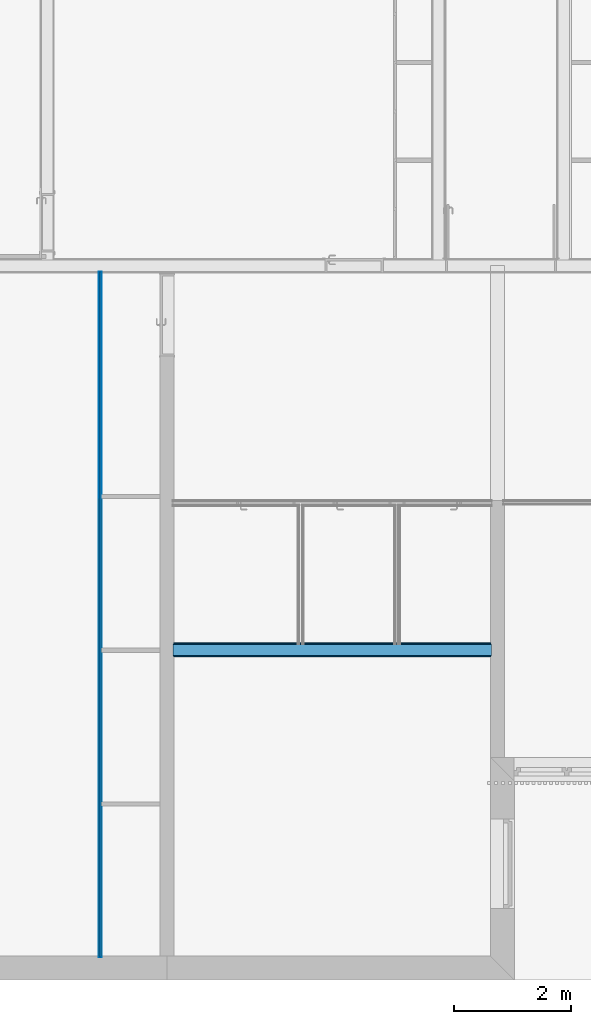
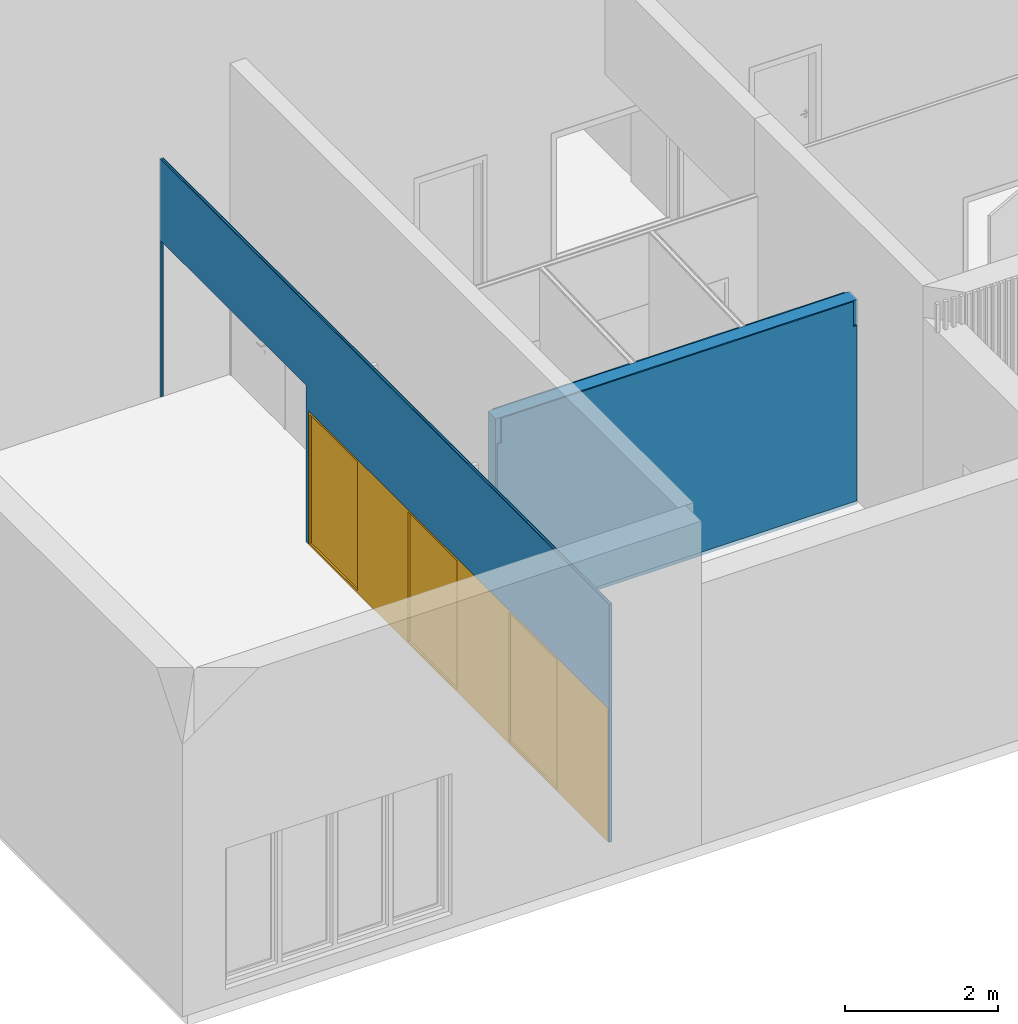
# One storey, part 20 of 34: 6 building element parts, 1 window, 2 openings, 2 elements without a shape of their own.
"""IFC2X3 building model written with IfcOpenShell, lengths in metres."""

from ifc_helpers import new_model, entity, si_unit, converted_unit, derived_unit, money_unit, direction, frame, origin_with_axes, origin_2d_with_axis, place, context, subcontext, project, spatial, polyline, rectangle, outline, extrude, boolean, faceted_brep, material, type_object, element, fill, aggregate, save


model = new_model("IFC2X3")

# Units and contexts
model_context = context("Model", 3, precision=1e-05, world=origin_with_axes(), true_north=direction((0.0, 1.0)))
body_context = subcontext(model_context, "Body", "Model", "MODEL_VIEW")
ifc_project = project(units=[si_unit("LENGTHUNIT", "METRE"), si_unit("AREAUNIT", "SQUARE_METRE"), si_unit("VOLUMEUNIT", "CUBIC_METRE"), converted_unit("PLANEANGLEUNIT", "DEGREE", entity("IfcPlaneAngleMeasure", 0.0174532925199), si_unit("PLANEANGLEUNIT", "RADIAN"), dimensions=[0, 0, 0, 0, 0, 0, 0]), money_unit("CHF"), converted_unit("TIMEUNIT", "Year", entity("IfcTimeMeasure", 31556926.0), si_unit("TIMEUNIT", "SECOND"), dimensions=[0, 0, 1, 0, 0, 0, 0]), si_unit("MASSUNIT", "GRAM", prefix="KILO"), si_unit("THERMODYNAMICTEMPERATUREUNIT", "DEGREE_CELSIUS"), si_unit("LUMINOUSINTENSITYUNIT", "LUMEN"), si_unit("ENERGYUNIT", "JOULE", prefix="MEGA"), derived_unit("THERMALCONDUCTANCEUNIT", [(si_unit("POWERUNIT", "WATT"), 1), (si_unit("LENGTHUNIT", "METRE"), -1), (si_unit("THERMODYNAMICTEMPERATUREUNIT", "KELVIN"), -1)]), derived_unit("SPECIFICHEATCAPACITYUNIT", [(si_unit("ENERGYUNIT", "JOULE"), 1), (si_unit("MASSUNIT", "GRAM", prefix="KILO"), -1), (si_unit("THERMODYNAMICTEMPERATUREUNIT", "KELVIN"), -1)]), derived_unit("MASSDENSITYUNIT", [(si_unit("MASSUNIT", "GRAM", prefix="KILO"), 1), (si_unit("VOLUMEUNIT", "CUBIC_METRE"), -1)])], contexts=[model_context])

# Site, building, storey
site_placement = place(None, origin_with_axes())
site = spatial("IfcSite", under=ifc_project, at=site_placement, Name="Site", CompositionType="ELEMENT")
building_placement = place(site_placement, origin_with_axes())
building = spatial("IfcBuilding", under=site, at=building_placement, Name="Bâtiment", CompositionType="ELEMENT")
storey_placement = place(building_placement, origin_with_axes())
storey = spatial("IfcBuildingStorey", under=building, at=storey_placement, Name="Rez-de-chaussée", CompositionType="ELEMENT", Elevation=0.0)

# Window
window_style = type_object("IfcWindowStyle", Name="Fenêtre horizontale à châssis multiples 26", ConstructionType="NOTDEFINED", OperationType="USERDEFINED", ParameterTakesPrecedence=False, Sizeable=False)
wall_2_placement = place(storey_placement, frame((17.5694697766, 3.06016550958, 0.0), z_axis=(0.0, 0.0, 1.0), x_axis=(0.0, 1.0, 0.0)))
opening_1_placement = place(wall_2_placement, frame((4.035, 0.0, 0.0), z_axis=(0.0, 0.0, 1.0), x_axis=(1.0, 0.0, 0.0)))
window_placement = place(opening_1_placement, frame((3.915, 0.0, 0.0), z_axis=(0.0, 0.0, 1.0), x_axis=(-1.0, 0.0, 0.0)))
window = element("IfcWindow", 1, at=window_placement, inside=storey, type_object=window_style, Name="Portes placard couliisantes 3x2panneaux", ObjectType="WINDOW", OverallHeight=2.13, OverallWidth=7.83, context=body_context, shape_type="Brep", body=[
    faceted_brep([(7.795, -0.05, 2.095), (7.83, -0.05, 2.095), (7.83, 0.0, 2.095), (7.795, 0.0, 2.095), (7.795, -0.05, 0.035), (7.83, -0.05, 0.035), (7.83, 0.0, 0.035), (7.795, 0.0, 0.035)], [[[0, 1, 2, 3]], [[0, 4, 5, 1]], [[1, 5, 6, 2]], [[3, 2, 6, 7]], [[4, 0, 3, 7]], [[5, 4, 7, 6]]]),
    faceted_brep([(0.035, -0.05, 0.035), (0.0, -0.05, 0.035), (0.0, 0.0, 0.035), (0.035, 0.0, 0.035), (0.035, -0.05, 2.095), (0.0, -0.05, 2.095), (0.0, 0.0, 2.095), (0.035, 0.0, 2.095)], [[[0, 1, 2, 3]], [[0, 4, 5, 1]], [[1, 5, 6, 2]], [[3, 2, 6, 7]], [[4, 0, 3, 7]], [[5, 4, 7, 6]]]),
    faceted_brep([(0.035, -0.05, 2.095), (0.0, -0.05, 2.095), (0.0, 0.0, 2.095), (0.035, 0.0, 2.095), (2.5725, -0.05, 2.095), (2.6075, -0.05, 2.095), (5.2075, -0.05, 2.095), (5.2425, -0.05, 2.095), (7.795, -0.05, 2.095), (7.83, -0.05, 2.095), (7.83, -0.05, 2.13), (0.0, -0.05, 2.13), (0.0, 0.0, 2.13), (7.83, 0.0, 2.13), (7.83, 0.0, 2.095), (7.795, 0.0, 2.095), (5.2425, 0.0, 2.095), (5.2075, 0.0, 2.095), (2.6075, 0.0, 2.095), (2.5725, 0.0, 2.095)], [[[0, 1, 2, 3]], [[0, 4, 5, 6, 7, 8, 9, 10, 11, 1]], [[1, 11, 12, 2]], [[3, 2, 12, 13, 14, 15, 16, 17, 18, 19]], [[4, 0, 3, 19]], [[5, 4, 19, 18]], [[6, 5, 18, 17]], [[7, 6, 17, 16]], [[8, 7, 16, 15]], [[9, 8, 15, 14]], [[10, 9, 14, 13]], [[11, 10, 13, 12]]]),
    faceted_brep([(2.5725, -0.05, 0.035), (2.6075, -0.05, 0.035), (2.6075, 0.0, 0.035), (2.5725, 0.0, 0.035), (0.035, -0.05, 0.035), (0.0, -0.05, 0.035), (0.0, -0.05, 0.0), (7.83, -0.05, 0.0), (7.83, -0.05, 0.035), (7.795, -0.05, 0.035), (5.2425, -0.05, 0.035), (5.2075, -0.05, 0.035), (5.2075, 0.0, 0.035), (5.2425, 0.0, 0.035), (7.795, 0.0, 0.035), (7.83, 0.0, 0.035), (7.83, 0.0, 0.0), (0.0, 0.0, 0.0), (0.0, 0.0, 0.035), (0.035, 0.0, 0.035)], [[[0, 1, 2, 3]], [[0, 4, 5, 6, 7, 8, 9, 10, 11, 1]], [[1, 11, 12, 2]], [[3, 2, 12, 13, 14, 15, 16, 17, 18, 19]], [[4, 0, 3, 19]], [[5, 4, 19, 18]], [[6, 5, 18, 17]], [[7, 6, 17, 16]], [[8, 7, 16, 15]], [[9, 8, 15, 14]], [[10, 9, 14, 13]], [[11, 10, 13, 12]]]),
    faceted_brep([(5.2075, -0.05, 0.035), (5.2075, -0.05, 2.095), (5.2075, 0.0, 2.095), (5.2075, 0.0, 0.035), (5.2425, -0.05, 0.035), (5.2425, -0.05, 2.095), (5.2425, 0.0, 2.095), (5.2425, 0.0, 0.035)], [[[0, 1, 2, 3]], [[0, 4, 5, 1]], [[1, 5, 6, 2]], [[3, 2, 6, 7]], [[4, 0, 3, 7]], [[5, 4, 7, 6]]]),
    faceted_brep([(2.5725, -0.05, 0.035), (2.5725, -0.05, 2.095), (2.5725, 0.0, 2.095), (2.5725, 0.0, 0.035), (2.6075, -0.05, 0.035), (2.6075, -0.05, 2.095), (2.6075, 0.0, 2.095), (2.6075, 0.0, 0.035)], [[[0, 1, 2, 3]], [[0, 4, 5, 1]], [[1, 5, 6, 2]], [[3, 2, 6, 7]], [[4, 0, 3, 7]], [[5, 4, 7, 6]]]),
    faceted_brep([(6.54375, -0.025, 0.035), (5.2425, -0.025, 0.035), (5.2425, 0.0, 0.035), (6.54375, 0.0, 0.035), (6.54375, -0.025, 2.095), (5.2425, -0.025, 2.095), (5.2425, 0.0, 2.095), (6.54375, 0.0, 2.095)], [[[0, 1, 2, 3]], [[0, 4, 5, 1]], [[1, 5, 6, 2]], [[3, 2, 6, 7]], [[4, 0, 3, 7]], [[5, 4, 7, 6]]]),
    faceted_brep([(7.795, -0.05, 0.035), (6.49375, -0.05, 0.035), (6.49375, -0.025, 0.035), (7.795, -0.025, 0.035), (7.795, -0.05, 2.095), (6.49375, -0.05, 2.095), (6.49375, -0.025, 2.095), (7.795, -0.025, 2.095)], [[[0, 1, 2, 3]], [[0, 4, 5, 1]], [[1, 5, 6, 2]], [[3, 2, 6, 7]], [[4, 0, 3, 7]], [[5, 4, 7, 6]]]),
    faceted_brep([(3.9325, -0.025, 0.035), (2.6075, -0.025, 0.035), (2.6075, 0.0, 0.035), (3.9325, 0.0, 0.035), (3.9325, -0.025, 2.095), (2.6075, -0.025, 2.095), (2.6075, 0.0, 2.095), (3.9325, 0.0, 2.095)], [[[0, 1, 2, 3]], [[0, 4, 5, 1]], [[1, 5, 6, 2]], [[3, 2, 6, 7]], [[4, 0, 3, 7]], [[5, 4, 7, 6]]]),
    faceted_brep([(5.2075, -0.05, 0.035), (3.8825, -0.05, 0.035), (3.8825, -0.025, 0.035), (5.2075, -0.025, 0.035), (5.2075, -0.05, 2.095), (3.8825, -0.05, 2.095), (3.8825, -0.025, 2.095), (5.2075, -0.025, 2.095)], [[[0, 1, 2, 3]], [[0, 4, 5, 1]], [[1, 5, 6, 2]], [[3, 2, 6, 7]], [[4, 0, 3, 7]], [[5, 4, 7, 6]]]),
    faceted_brep([(1.32875, -0.025, 0.035), (0.035, -0.025, 0.035), (0.035, 0.0, 0.035), (1.32875, 0.0, 0.035), (1.32875, -0.025, 2.095), (0.035, -0.025, 2.095), (0.035, 0.0, 2.095), (1.32875, 0.0, 2.095)], [[[0, 1, 2, 3]], [[0, 4, 5, 1]], [[1, 5, 6, 2]], [[3, 2, 6, 7]], [[4, 0, 3, 7]], [[5, 4, 7, 6]]]),
    faceted_brep([(2.5725, -0.05, 0.035), (1.27875, -0.05, 0.035), (1.27875, -0.025, 0.035), (2.5725, -0.025, 0.035), (2.5725, -0.05, 2.095), (1.27875, -0.05, 2.095), (1.27875, -0.025, 2.095), (2.5725, -0.025, 2.095)], [[[0, 1, 2, 3]], [[0, 4, 5, 1]], [[1, 5, 6, 2]], [[3, 2, 6, 7]], [[4, 0, 3, 7]], [[5, 4, 7, 6]]]),
])

# Wall, building element parts
wall_type_1 = type_object("IfcWallType", Name="Mur 20cm + enduit 2cm 240", PredefinedType="NOTDEFINED")
wall_1_placement = place(storey_placement, frame((18.6894697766, 8.42012566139, -0.21), z_axis=(0.0, 0.0, 1.0), x_axis=(1.0, 0.0, 0.0)))
wall_1 = element("IfcWall", 2, at=wall_1_placement, inside=storey, type_object=wall_type_1, Name="MUR_EXT-007")
ifc_material_1 = material(Name="Finition int - Enduit plâtre")
building_element_part_1_placement = place(wall_1_placement, origin_with_axes())
building_element_part_1 = element("IfcBuildingElementPart", 3, at=building_element_part_1_placement, material=ifc_material_1, Name="Finition int - Enduit plâtre", context=body_context, shape_type="CSG", body=[
    boolean("DIFFERENCE", boolean("DIFFERENCE", boolean("DIFFERENCE", extrude(outline(polyline([(-0.12, 0.1), (5.78, 0.1), (5.78, 0.12), (-0.12, 0.12), (-0.12, 0.1)])), origin_with_axes(), (0.0, 0.0, 1.0), 3.45243501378), faceted_brep([(-0.12, 0.1, 3.45243501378), (-0.12, 0.1, 0.0), (5.78, 0.1, 0.0), (5.78, 0.1, 3.45243501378), (5.485, 0.1, 3.40170439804), (5.485, 0.1, 3.0), (5.54, 0.1, 3.0), (5.54, 0.1, 0.2), (0.120000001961, 0.1, 0.2), (0.120000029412, 0.1, 3.0), (0.175000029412, 0.1, 3.0), (0.175000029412, 0.1, 3.40170439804), (2.24, 0.1, 3.40170439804), (2.24, 0.1, 0.21), (2.34, 0.1, 0.21), (2.34000000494, 0.1, 3.40170439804), (3.89, 0.1, 3.40170439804), (3.89, 0.1, 0.21), (3.99, 0.1, 0.21), (3.99000000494, 0.1, 3.40170439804), (-0.12, 0.12, 3.45243501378), (-0.12, 0.12, 0.0), (5.78, 0.12, 0.0), (5.78, 0.12, 3.45243501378), (5.485, 0.12, 3.40240439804), (5.485, 0.12, 3.0), (5.54, 0.12, 3.0), (5.54, 0.12, 0.2), (0.120000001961, 0.12, 0.2), (0.120000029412, 0.12, 3.0), (0.175000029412, 0.12, 3.0), (0.175000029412, 0.12, 3.40240439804), (2.24, 0.12, 3.40240439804), (2.24, 0.12, 0.21), (2.34, 0.12, 0.21), (2.34000000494, 0.12, 3.40240439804), (3.89, 0.12, 3.40240439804), (3.89, 0.12, 0.21), (3.99, 0.12, 0.21), (3.99000000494, 0.12, 3.40240439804)], [[[0, 1, 2, 3], [4, 5, 6, 7, 8, 9, 10, 11, 12, 13, 14, 15, 16, 17, 18, 19]], [[20, 21, 1, 0]], [[2, 1, 21, 22]], [[3, 2, 22, 23]], [[20, 0, 3, 23]], [[24, 25, 5, 4]], [[25, 26, 6, 5]], [[26, 27, 7, 6]], [[27, 28, 8, 7]], [[28, 29, 9, 8]], [[29, 30, 10, 9]], [[30, 31, 11, 10]], [[31, 32, 12, 11]], [[32, 33, 13, 12]], [[33, 34, 14, 13]], [[34, 35, 15, 14]], [[35, 36, 16, 15]], [[36, 37, 17, 16]], [[37, 38, 18, 17]], [[38, 39, 19, 18]], [[39, 24, 4, 19]], [[23, 22, 21, 20], [28, 27, 26, 25, 24, 39, 38, 37, 36, 35, 34, 33, 32, 31, 30, 29]]])), faceted_brep([(-0.12, -0.1, 3.45243501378), (-0.12, -0.1, 0.0), (5.78, -0.1, 0.0), (5.78, -0.1, 3.45243501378), (0.175000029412, -0.1, 3.39470439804), (5.485, -0.1, 3.39470439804), (5.56000000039, -0.1, 3.39470439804), (5.56, -0.1, 0.13), (0.1, -0.1, 0.13), (0.100000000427, -0.1, 3.39470439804), (-0.12, 0.1, 3.45243501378), (-0.12, 0.1, 0.0), (5.78, 0.1, 0.0), (5.78, 0.1, 3.45243501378), (5.485, 0.1, 3.40170439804), (5.56000000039, 0.1, 3.40170439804), (0.100000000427, 0.1, 3.40170439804), (0.175000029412, 0.1, 3.40170439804), (2.24, 0.1, 3.40170439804), (2.34000000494, 0.1, 3.40170439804), (3.89, 0.1, 3.40170439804), (3.99000000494, 0.1, 3.40170439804), (5.56, 0.1, 0.13), (0.1, 0.1, 0.13)], [[[0, 1, 2, 3], [4, 5, 6, 7, 8, 9]], [[10, 11, 1, 0]], [[2, 1, 11, 12]], [[3, 2, 12, 13]], [[10, 0, 3, 13]], [[14, 15, 6, 5, 4, 9, 16, 17, 18, 19, 20, 21]], [[15, 22, 7, 6]], [[22, 23, 8, 7]], [[23, 16, 9, 8]], [[13, 12, 11, 10], [23, 22, 15, 14, 21, 20, 19, 18, 17, 16]]])), faceted_brep([(-0.12, -0.12, 3.45243501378), (-0.12, -0.12, 0.0), (5.78, -0.12, 0.0), (5.78, -0.12, 3.45243501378), (5.485, -0.12, 3.39400439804), (5.485, -0.12, 3.0), (5.54, -0.12, 3.0), (5.54, -0.12, 0.2), (0.120000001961, -0.12, 0.2), (0.120000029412, -0.12, 3.0), (0.175000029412, -0.12, 3.0), (0.175000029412, -0.12, 3.39400439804), (-0.12, -0.1, 3.45243501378), (-0.12, -0.1, 0.0), (5.78, -0.1, 0.0), (5.78, -0.1, 3.45243501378), (5.485, -0.1, 3.39470439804), (5.485, -0.1, 3.0), (5.54, -0.1, 3.0), (5.54, -0.1, 0.2), (0.120000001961, -0.1, 0.2), (0.120000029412, -0.1, 3.0), (0.175000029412, -0.1, 3.0), (0.175000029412, -0.1, 3.39470439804)], [[[0, 1, 2, 3], [4, 5, 6, 7, 8, 9, 10, 11]], [[12, 13, 1, 0]], [[2, 1, 13, 14]], [[3, 2, 14, 15]], [[12, 0, 3, 15]], [[16, 17, 5, 4]], [[17, 18, 6, 5]], [[18, 19, 7, 6]], [[19, 20, 8, 7]], [[20, 21, 9, 8]], [[21, 22, 10, 9]], [[22, 23, 11, 10]], [[23, 16, 4, 11]], [[15, 14, 13, 12], [20, 19, 18, 17, 16, 23, 22, 21]]])),
])
ifc_material_2 = material(Name="Béton armé (Coulé)")
building_element_part_2_placement = place(wall_1_placement, origin_with_axes())
building_element_part_2 = element("IfcBuildingElementPart", 4, at=building_element_part_2_placement, material=ifc_material_2, Name="Béton armé (Coulé)", context=body_context, shape_type="CSG", body=[
    boolean("DIFFERENCE", boolean("DIFFERENCE", boolean("DIFFERENCE", extrude(outline(polyline([(-0.12, -0.1), (5.78, -0.1), (5.78, 0.1), (-0.12, 0.1), (-0.12, -0.1)])), origin_with_axes(), (0.0, 0.0, 1.0), 3.45243501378), faceted_brep([(-0.12, 0.1, 3.45243501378), (-0.12, 0.1, 0.0), (5.78, 0.1, 0.0), (5.78, 0.1, 3.45243501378), (5.485, 0.1, 3.40170439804), (5.485, 0.1, 3.0), (5.54, 0.1, 3.0), (5.54, 0.1, 0.2), (0.120000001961, 0.1, 0.2), (0.120000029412, 0.1, 3.0), (0.175000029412, 0.1, 3.0), (0.175000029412, 0.1, 3.40170439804), (2.24, 0.1, 3.40170439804), (2.24, 0.1, 0.21), (2.34, 0.1, 0.21), (2.34000000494, 0.1, 3.40170439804), (3.89, 0.1, 3.40170439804), (3.89, 0.1, 0.21), (3.99, 0.1, 0.21), (3.99000000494, 0.1, 3.40170439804), (-0.12, 0.12, 3.45243501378), (-0.12, 0.12, 0.0), (5.78, 0.12, 0.0), (5.78, 0.12, 3.45243501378), (5.485, 0.12, 3.40240439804), (5.485, 0.12, 3.0), (5.54, 0.12, 3.0), (5.54, 0.12, 0.2), (0.120000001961, 0.12, 0.2), (0.120000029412, 0.12, 3.0), (0.175000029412, 0.12, 3.0), (0.175000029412, 0.12, 3.40240439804), (2.24, 0.12, 3.40240439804), (2.24, 0.12, 0.21), (2.34, 0.12, 0.21), (2.34000000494, 0.12, 3.40240439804), (3.89, 0.12, 3.40240439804), (3.89, 0.12, 0.21), (3.99, 0.12, 0.21), (3.99000000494, 0.12, 3.40240439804)], [[[0, 1, 2, 3], [4, 5, 6, 7, 8, 9, 10, 11, 12, 13, 14, 15, 16, 17, 18, 19]], [[20, 21, 1, 0]], [[2, 1, 21, 22]], [[3, 2, 22, 23]], [[20, 0, 3, 23]], [[24, 25, 5, 4]], [[25, 26, 6, 5]], [[26, 27, 7, 6]], [[27, 28, 8, 7]], [[28, 29, 9, 8]], [[29, 30, 10, 9]], [[30, 31, 11, 10]], [[31, 32, 12, 11]], [[32, 33, 13, 12]], [[33, 34, 14, 13]], [[34, 35, 15, 14]], [[35, 36, 16, 15]], [[36, 37, 17, 16]], [[37, 38, 18, 17]], [[38, 39, 19, 18]], [[39, 24, 4, 19]], [[23, 22, 21, 20], [28, 27, 26, 25, 24, 39, 38, 37, 36, 35, 34, 33, 32, 31, 30, 29]]])), faceted_brep([(-0.12, -0.1, 3.45243501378), (-0.12, -0.1, 0.0), (5.78, -0.1, 0.0), (5.78, -0.1, 3.45243501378), (0.175000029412, -0.1, 3.39470439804), (5.485, -0.1, 3.39470439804), (5.56000000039, -0.1, 3.39470439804), (5.56, -0.1, 0.13), (0.1, -0.1, 0.13), (0.100000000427, -0.1, 3.39470439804), (-0.12, 0.1, 3.45243501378), (-0.12, 0.1, 0.0), (5.78, 0.1, 0.0), (5.78, 0.1, 3.45243501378), (5.485, 0.1, 3.40170439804), (5.56000000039, 0.1, 3.40170439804), (0.100000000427, 0.1, 3.40170439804), (0.175000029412, 0.1, 3.40170439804), (2.24, 0.1, 3.40170439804), (2.34000000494, 0.1, 3.40170439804), (3.89, 0.1, 3.40170439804), (3.99000000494, 0.1, 3.40170439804), (5.56, 0.1, 0.13), (0.1, 0.1, 0.13)], [[[0, 1, 2, 3], [4, 5, 6, 7, 8, 9]], [[10, 11, 1, 0]], [[2, 1, 11, 12]], [[3, 2, 12, 13]], [[10, 0, 3, 13]], [[14, 15, 6, 5, 4, 9, 16, 17, 18, 19, 20, 21]], [[15, 22, 7, 6]], [[22, 23, 8, 7]], [[23, 16, 9, 8]], [[13, 12, 11, 10], [23, 22, 15, 14, 21, 20, 19, 18, 17, 16]]])), faceted_brep([(-0.12, -0.12, 3.45243501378), (-0.12, -0.12, 0.0), (5.78, -0.12, 0.0), (5.78, -0.12, 3.45243501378), (5.485, -0.12, 3.39400439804), (5.485, -0.12, 3.0), (5.54, -0.12, 3.0), (5.54, -0.12, 0.2), (0.120000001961, -0.12, 0.2), (0.120000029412, -0.12, 3.0), (0.175000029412, -0.12, 3.0), (0.175000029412, -0.12, 3.39400439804), (-0.12, -0.1, 3.45243501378), (-0.12, -0.1, 0.0), (5.78, -0.1, 0.0), (5.78, -0.1, 3.45243501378), (5.485, -0.1, 3.39470439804), (5.485, -0.1, 3.0), (5.54, -0.1, 3.0), (5.54, -0.1, 0.2), (0.120000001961, -0.1, 0.2), (0.120000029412, -0.1, 3.0), (0.175000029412, -0.1, 3.0), (0.175000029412, -0.1, 3.39470439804)], [[[0, 1, 2, 3], [4, 5, 6, 7, 8, 9, 10, 11]], [[12, 13, 1, 0]], [[2, 1, 13, 14]], [[3, 2, 14, 15]], [[12, 0, 3, 15]], [[16, 17, 5, 4]], [[17, 18, 6, 5]], [[18, 19, 7, 6]], [[19, 20, 8, 7]], [[20, 21, 9, 8]], [[21, 22, 10, 9]], [[22, 23, 11, 10]], [[23, 16, 4, 11]], [[15, 14, 13, 12], [20, 19, 18, 17, 16, 23, 22, 21]]])),
])
building_element_part_3_placement = place(wall_1_placement, origin_with_axes())
building_element_part_3 = element("IfcBuildingElementPart", 5, at=building_element_part_3_placement, material=ifc_material_1, Name="Finition int - Enduit plâtre", context=body_context, shape_type="CSG", body=[
    boolean("DIFFERENCE", boolean("DIFFERENCE", boolean("DIFFERENCE", extrude(outline(polyline([(-0.12, -0.12), (5.78, -0.12), (5.78, -0.1), (-0.12, -0.1), (-0.12, -0.12)])), origin_with_axes(), (0.0, 0.0, 1.0), 3.45243501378), faceted_brep([(-0.12, 0.1, 3.45243501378), (-0.12, 0.1, 0.0), (5.78, 0.1, 0.0), (5.78, 0.1, 3.45243501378), (5.485, 0.1, 3.40170439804), (5.485, 0.1, 3.0), (5.54, 0.1, 3.0), (5.54, 0.1, 0.2), (0.120000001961, 0.1, 0.2), (0.120000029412, 0.1, 3.0), (0.175000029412, 0.1, 3.0), (0.175000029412, 0.1, 3.40170439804), (2.24, 0.1, 3.40170439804), (2.24, 0.1, 0.21), (2.34, 0.1, 0.21), (2.34000000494, 0.1, 3.40170439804), (3.89, 0.1, 3.40170439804), (3.89, 0.1, 0.21), (3.99, 0.1, 0.21), (3.99000000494, 0.1, 3.40170439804), (-0.12, 0.12, 3.45243501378), (-0.12, 0.12, 0.0), (5.78, 0.12, 0.0), (5.78, 0.12, 3.45243501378), (5.485, 0.12, 3.40240439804), (5.485, 0.12, 3.0), (5.54, 0.12, 3.0), (5.54, 0.12, 0.2), (0.120000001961, 0.12, 0.2), (0.120000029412, 0.12, 3.0), (0.175000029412, 0.12, 3.0), (0.175000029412, 0.12, 3.40240439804), (2.24, 0.12, 3.40240439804), (2.24, 0.12, 0.21), (2.34, 0.12, 0.21), (2.34000000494, 0.12, 3.40240439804), (3.89, 0.12, 3.40240439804), (3.89, 0.12, 0.21), (3.99, 0.12, 0.21), (3.99000000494, 0.12, 3.40240439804)], [[[0, 1, 2, 3], [4, 5, 6, 7, 8, 9, 10, 11, 12, 13, 14, 15, 16, 17, 18, 19]], [[20, 21, 1, 0]], [[2, 1, 21, 22]], [[3, 2, 22, 23]], [[20, 0, 3, 23]], [[24, 25, 5, 4]], [[25, 26, 6, 5]], [[26, 27, 7, 6]], [[27, 28, 8, 7]], [[28, 29, 9, 8]], [[29, 30, 10, 9]], [[30, 31, 11, 10]], [[31, 32, 12, 11]], [[32, 33, 13, 12]], [[33, 34, 14, 13]], [[34, 35, 15, 14]], [[35, 36, 16, 15]], [[36, 37, 17, 16]], [[37, 38, 18, 17]], [[38, 39, 19, 18]], [[39, 24, 4, 19]], [[23, 22, 21, 20], [28, 27, 26, 25, 24, 39, 38, 37, 36, 35, 34, 33, 32, 31, 30, 29]]])), faceted_brep([(-0.12, -0.1, 3.45243501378), (-0.12, -0.1, 0.0), (5.78, -0.1, 0.0), (5.78, -0.1, 3.45243501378), (0.175000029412, -0.1, 3.39470439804), (5.485, -0.1, 3.39470439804), (5.56000000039, -0.1, 3.39470439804), (5.56, -0.1, 0.13), (0.1, -0.1, 0.13), (0.100000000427, -0.1, 3.39470439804), (-0.12, 0.1, 3.45243501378), (-0.12, 0.1, 0.0), (5.78, 0.1, 0.0), (5.78, 0.1, 3.45243501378), (5.485, 0.1, 3.40170439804), (5.56000000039, 0.1, 3.40170439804), (0.100000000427, 0.1, 3.40170439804), (0.175000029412, 0.1, 3.40170439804), (2.24, 0.1, 3.40170439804), (2.34000000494, 0.1, 3.40170439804), (3.89, 0.1, 3.40170439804), (3.99000000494, 0.1, 3.40170439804), (5.56, 0.1, 0.13), (0.1, 0.1, 0.13)], [[[0, 1, 2, 3], [4, 5, 6, 7, 8, 9]], [[10, 11, 1, 0]], [[2, 1, 11, 12]], [[3, 2, 12, 13]], [[10, 0, 3, 13]], [[14, 15, 6, 5, 4, 9, 16, 17, 18, 19, 20, 21]], [[15, 22, 7, 6]], [[22, 23, 8, 7]], [[23, 16, 9, 8]], [[13, 12, 11, 10], [23, 22, 15, 14, 21, 20, 19, 18, 17, 16]]])), faceted_brep([(-0.12, -0.12, 3.45243501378), (-0.12, -0.12, 0.0), (5.78, -0.12, 0.0), (5.78, -0.12, 3.45243501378), (5.485, -0.12, 3.39400439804), (5.485, -0.12, 3.0), (5.54, -0.12, 3.0), (5.54, -0.12, 0.2), (0.120000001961, -0.12, 0.2), (0.120000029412, -0.12, 3.0), (0.175000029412, -0.12, 3.0), (0.175000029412, -0.12, 3.39400439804), (-0.12, -0.1, 3.45243501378), (-0.12, -0.1, 0.0), (5.78, -0.1, 0.0), (5.78, -0.1, 3.45243501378), (5.485, -0.1, 3.39470439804), (5.485, -0.1, 3.0), (5.54, -0.1, 3.0), (5.54, -0.1, 0.2), (0.120000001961, -0.1, 0.2), (0.120000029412, -0.1, 3.0), (0.175000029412, -0.1, 3.0), (0.175000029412, -0.1, 3.39470439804)], [[[0, 1, 2, 3], [4, 5, 6, 7, 8, 9, 10, 11]], [[12, 13, 1, 0]], [[2, 1, 13, 14]], [[3, 2, 14, 15]], [[12, 0, 3, 15]], [[16, 17, 5, 4]], [[17, 18, 6, 5]], [[18, 19, 7, 6]], [[19, 20, 8, 7]], [[20, 21, 9, 8]], [[21, 22, 10, 9]], [[22, 23, 11, 10]], [[23, 16, 4, 11]], [[15, 14, 13, 12], [20, 19, 18, 17, 16, 23, 22, 21]]])),
])
aggregate(wall_1, [building_element_part_1, building_element_part_2, building_element_part_3])

# Wall, opening
wall_type_2 = type_object("IfcWallType", Name="Cloison 50 50", PredefinedType="NOTDEFINED")
wall_2 = element("IfcWall", 6, at=wall_2_placement, inside=storey, type_object=wall_type_2, Name="MUR_EXT-006")
opening_1 = element("IfcOpeningElement", 7, at=opening_1_placement, cuts=wall_2, Name="Portes placard couliisantes 3x2panneaux", context=body_context, shape_type="SweptSolid", body=[
    extrude(rectangle(XDim=7.83, YDim=2.13, at=origin_2d_with_axis()), frame((0.0, -0.05, 1.065), z_axis=(0.0, -1.0, 0.0), x_axis=(1.0, 0.0, 0.0)), (0.0, 0.0, -1.0), 0.15),
])

fill(opening_1, window)

# Opening
opening_2_placement = place(wall_2_placement, frame((9.91991724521, 0.0, 0.0), z_axis=(0.0, 0.0, 1.0), x_axis=(1.0, 0.0, 0.0)))
element("IfcOpeningElement", 8, at=opening_2_placement, cuts=wall_2, Name="PORTE-003", context=body_context, shape_type="SweptSolid", body=[
    extrude(rectangle(XDim=3.79983449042, YDim=2.5, at=origin_2d_with_axis()), frame((0.0, 0.05, 1.25), z_axis=(0.0, 1.0, 0.0), x_axis=(-1.0, 0.0, 0.0)), (0.0, 0.0, -1.0), 0.15),
])

# Building element part
ifc_material_3 = material(Name="Finition int - Plaque de plâtre")
building_element_part_4_placement = place(wall_2_placement, origin_with_axes())
solid_1 = boolean("DIFFERENCE", boolean("DIFFERENCE", boolean("DIFFERENCE", boolean("DIFFERENCE", boolean("DIFFERENCE", boolean("DIFFERENCE", boolean("DIFFERENCE", boolean("DIFFERENCE", extrude(outline(polyline([(-0.29, 0.037), (12.0598344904, 0.037), (12.0598344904, 0.05), (-0.29, 0.05), (-0.29, 0.037)])), origin_with_axes(), (0.0, 0.0, 1.0), 3.8), faceted_brep([(0.1, 0.037, 0.0), (0.1, 0.037, 3.8), (-0.29, 0.037, 3.8), (-0.29, 0.037, 0.0), (0.1, 0.05, 3.8), (0.1, 0.05, 0.0), (-0.29, 0.05, 3.8), (-0.29, 0.05, 0.0)], [[[0, 1, 2, 3]], [[4, 1, 0, 5]], [[1, 4, 6, 2]], [[6, 7, 3, 2]], [[5, 0, 3, 7]], [[4, 5, 7, 6]]])), faceted_brep([(11.8398344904, 0.05, 3.8), (11.8398344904, 0.037, 3.8), (12.0598344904, 0.037, 3.8), (12.0598344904, 0.05, 3.8), (11.8398344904, 0.05, 0.0), (11.8398344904, 0.037, 0.0), (12.0598344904, 0.037, 0.0), (12.0598344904, 0.05, 0.0)], [[[0, 1, 2, 3]], [[1, 0, 4, 5]], [[1, 5, 6, 2]], [[2, 6, 7, 3]], [[4, 0, 3, 7]], [[5, 4, 7, 6]]])), faceted_brep([(0.1, 0.013, 0.0), (0.1, 0.013, 3.8), (-0.29, 0.013, 3.8), (-0.29, 0.013, 0.0), (0.1, 0.037, 3.8), (0.1, 0.037, 0.0), (-0.29, 0.037, 3.8), (-0.29, 0.037, 0.0)], [[[0, 1, 2, 3]], [[4, 1, 0, 5]], [[1, 4, 6, 2]], [[6, 7, 3, 2]], [[5, 0, 3, 7]], [[4, 5, 7, 6]]])), faceted_brep([(11.8398344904, 0.037, 3.8), (11.8398344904, 0.013, 3.8), (12.0598344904, 0.013, 3.8), (12.0598344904, 0.037, 3.8), (11.8398344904, 0.037, 0.0), (11.8398344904, 0.013, 0.0), (12.0598344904, 0.013, 0.0), (12.0598344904, 0.037, 0.0)], [[[0, 1, 2, 3]], [[1, 0, 4, 5]], [[1, 5, 6, 2]], [[2, 6, 7, 3]], [[4, 0, 3, 7]], [[5, 4, 7, 6]]])), faceted_brep([(0.1, 0.0, 0.0), (0.1, 0.0, 3.8), (-0.29, 0.0, 3.8), (-0.29, 0.0, 0.0), (0.1, 0.013, 3.8), (0.1, 0.013, 0.0), (-0.29, 0.013, 3.8), (-0.29, 0.013, 0.0)], [[[0, 1, 2, 3]], [[4, 1, 0, 5]], [[1, 4, 6, 2]], [[6, 7, 3, 2]], [[5, 0, 3, 7]], [[4, 5, 7, 6]]])), faceted_brep([(2.703, 0.0, 2.5), (2.703, 0.0, 0.0), (2.747, 0.0, 0.0), (2.747, 0.0, 2.5), (2.703, 0.013, 2.5), (2.703, 0.013, 0.0), (2.747, 0.013, 0.0), (2.747, 0.013, 2.5)], [[[0, 1, 2, 3]], [[1, 0, 4, 5]], [[6, 2, 1, 5]], [[3, 2, 6, 7]], [[0, 3, 7, 4]], [[7, 6, 5, 4]]])), faceted_brep([(5.333, 0.0, 2.5), (5.333, 0.0, 0.0), (5.377, 0.0, 0.0), (5.377, 0.0, 2.5), (5.333, 0.013, 2.5), (5.333, 0.013, 0.0), (5.377, 0.013, 0.0), (5.377, 0.013, 2.5)], [[[0, 1, 2, 3]], [[1, 0, 4, 5]], [[6, 2, 1, 5]], [[3, 2, 6, 7]], [[0, 3, 7, 4]], [[7, 6, 5, 4]]])), faceted_brep([(7.963, 0.0, 2.5), (7.963, 0.0, 0.0), (8.007, 0.0, 0.0), (8.007, 0.0, 2.5), (7.963, 0.013, 2.5), (7.963, 0.013, 0.0), (8.007, 0.013, 0.0), (8.007, 0.013, 2.5)], [[[0, 1, 2, 3]], [[1, 0, 4, 5]], [[6, 2, 1, 5]], [[3, 2, 6, 7]], [[0, 3, 7, 4]], [[7, 6, 5, 4]]]))
building_element_part_4 = element("IfcBuildingElementPart", 9, at=building_element_part_4_placement, material=ifc_material_3, Name="Finition int - Plaque de plâtre", context=body_context, shape_type="CSG", body=[
    boolean("DIFFERENCE", solid_1, faceted_brep([(11.8398344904, 0.013, 3.8), (11.8398344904, 0.0, 3.8), (12.0598344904, 0.0, 3.8), (12.0598344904, 0.013, 3.8), (11.8398344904, 0.0, 0.0), (11.8398344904, 0.013, 0.0), (12.0598344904, 0.0, 0.0), (12.0598344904, 0.013, 0.0)], [[[0, 1, 2, 3]], [[4, 1, 0, 5]], [[1, 4, 6, 2]], [[2, 6, 7, 3]], [[5, 0, 3, 7]], [[4, 5, 7, 6]]])),
])

ifc_material_4 = material(Name="Isolation - Laine de verre")
building_element_part_5_placement = place(wall_2_placement, origin_with_axes())
solid_2 = boolean("DIFFERENCE", boolean("DIFFERENCE", boolean("DIFFERENCE", boolean("DIFFERENCE", boolean("DIFFERENCE", boolean("DIFFERENCE", boolean("DIFFERENCE", boolean("DIFFERENCE", extrude(outline(polyline([(-0.29, 0.013), (12.0598344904, 0.013), (12.0598344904, 0.037), (-0.29, 0.037), (-0.29, 0.013)])), origin_with_axes(), (0.0, 0.0, 1.0), 3.8), faceted_brep([(0.1, 0.037, 0.0), (0.1, 0.037, 3.8), (-0.29, 0.037, 3.8), (-0.29, 0.037, 0.0), (0.1, 0.05, 3.8), (0.1, 0.05, 0.0), (-0.29, 0.05, 3.8), (-0.29, 0.05, 0.0)], [[[0, 1, 2, 3]], [[4, 1, 0, 5]], [[1, 4, 6, 2]], [[6, 7, 3, 2]], [[5, 0, 3, 7]], [[4, 5, 7, 6]]])), faceted_brep([(11.8398344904, 0.05, 3.8), (11.8398344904, 0.037, 3.8), (12.0598344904, 0.037, 3.8), (12.0598344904, 0.05, 3.8), (11.8398344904, 0.05, 0.0), (11.8398344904, 0.037, 0.0), (12.0598344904, 0.037, 0.0), (12.0598344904, 0.05, 0.0)], [[[0, 1, 2, 3]], [[1, 0, 4, 5]], [[1, 5, 6, 2]], [[2, 6, 7, 3]], [[4, 0, 3, 7]], [[5, 4, 7, 6]]])), faceted_brep([(0.1, 0.013, 0.0), (0.1, 0.013, 3.8), (-0.29, 0.013, 3.8), (-0.29, 0.013, 0.0), (0.1, 0.037, 3.8), (0.1, 0.037, 0.0), (-0.29, 0.037, 3.8), (-0.29, 0.037, 0.0)], [[[0, 1, 2, 3]], [[4, 1, 0, 5]], [[1, 4, 6, 2]], [[6, 7, 3, 2]], [[5, 0, 3, 7]], [[4, 5, 7, 6]]])), faceted_brep([(11.8398344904, 0.037, 3.8), (11.8398344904, 0.013, 3.8), (12.0598344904, 0.013, 3.8), (12.0598344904, 0.037, 3.8), (11.8398344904, 0.037, 0.0), (11.8398344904, 0.013, 0.0), (12.0598344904, 0.013, 0.0), (12.0598344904, 0.037, 0.0)], [[[0, 1, 2, 3]], [[1, 0, 4, 5]], [[1, 5, 6, 2]], [[2, 6, 7, 3]], [[4, 0, 3, 7]], [[5, 4, 7, 6]]])), faceted_brep([(0.1, 0.0, 0.0), (0.1, 0.0, 3.8), (-0.29, 0.0, 3.8), (-0.29, 0.0, 0.0), (0.1, 0.013, 3.8), (0.1, 0.013, 0.0), (-0.29, 0.013, 3.8), (-0.29, 0.013, 0.0)], [[[0, 1, 2, 3]], [[4, 1, 0, 5]], [[1, 4, 6, 2]], [[6, 7, 3, 2]], [[5, 0, 3, 7]], [[4, 5, 7, 6]]])), faceted_brep([(2.703, 0.0, 2.5), (2.703, 0.0, 0.0), (2.747, 0.0, 0.0), (2.747, 0.0, 2.5), (2.703, 0.013, 2.5), (2.703, 0.013, 0.0), (2.747, 0.013, 0.0), (2.747, 0.013, 2.5)], [[[0, 1, 2, 3]], [[1, 0, 4, 5]], [[6, 2, 1, 5]], [[3, 2, 6, 7]], [[0, 3, 7, 4]], [[7, 6, 5, 4]]])), faceted_brep([(5.333, 0.0, 2.5), (5.333, 0.0, 0.0), (5.377, 0.0, 0.0), (5.377, 0.0, 2.5), (5.333, 0.013, 2.5), (5.333, 0.013, 0.0), (5.377, 0.013, 0.0), (5.377, 0.013, 2.5)], [[[0, 1, 2, 3]], [[1, 0, 4, 5]], [[6, 2, 1, 5]], [[3, 2, 6, 7]], [[0, 3, 7, 4]], [[7, 6, 5, 4]]])), faceted_brep([(7.963, 0.0, 2.5), (7.963, 0.0, 0.0), (8.007, 0.0, 0.0), (8.007, 0.0, 2.5), (7.963, 0.013, 2.5), (7.963, 0.013, 0.0), (8.007, 0.013, 0.0), (8.007, 0.013, 2.5)], [[[0, 1, 2, 3]], [[1, 0, 4, 5]], [[6, 2, 1, 5]], [[3, 2, 6, 7]], [[0, 3, 7, 4]], [[7, 6, 5, 4]]]))
building_element_part_5 = element("IfcBuildingElementPart", 10, at=building_element_part_5_placement, material=ifc_material_4, Name="Isolation - Laine de verre", context=body_context, shape_type="CSG", body=[
    boolean("DIFFERENCE", solid_2, faceted_brep([(11.8398344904, 0.013, 3.8), (11.8398344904, 0.0, 3.8), (12.0598344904, 0.0, 3.8), (12.0598344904, 0.013, 3.8), (11.8398344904, 0.0, 0.0), (11.8398344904, 0.013, 0.0), (12.0598344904, 0.0, 0.0), (12.0598344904, 0.013, 0.0)], [[[0, 1, 2, 3]], [[4, 1, 0, 5]], [[1, 4, 6, 2]], [[2, 6, 7, 3]], [[5, 0, 3, 7]], [[4, 5, 7, 6]]])),
])

building_element_part_6_placement = place(wall_2_placement, origin_with_axes())
solid_3 = boolean("DIFFERENCE", boolean("DIFFERENCE", boolean("DIFFERENCE", boolean("DIFFERENCE", boolean("DIFFERENCE", boolean("DIFFERENCE", boolean("DIFFERENCE", boolean("DIFFERENCE", extrude(outline(polyline([(-0.29, 0.0), (12.0598344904, 0.0), (12.0598344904, 0.013), (-0.29, 0.013), (-0.29, 0.0)])), origin_with_axes(), (0.0, 0.0, 1.0), 3.8), faceted_brep([(0.1, 0.037, 0.0), (0.1, 0.037, 3.8), (-0.29, 0.037, 3.8), (-0.29, 0.037, 0.0), (0.1, 0.05, 3.8), (0.1, 0.05, 0.0), (-0.29, 0.05, 3.8), (-0.29, 0.05, 0.0)], [[[0, 1, 2, 3]], [[4, 1, 0, 5]], [[1, 4, 6, 2]], [[6, 7, 3, 2]], [[5, 0, 3, 7]], [[4, 5, 7, 6]]])), faceted_brep([(11.8398344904, 0.05, 3.8), (11.8398344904, 0.037, 3.8), (12.0598344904, 0.037, 3.8), (12.0598344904, 0.05, 3.8), (11.8398344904, 0.05, 0.0), (11.8398344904, 0.037, 0.0), (12.0598344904, 0.037, 0.0), (12.0598344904, 0.05, 0.0)], [[[0, 1, 2, 3]], [[1, 0, 4, 5]], [[1, 5, 6, 2]], [[2, 6, 7, 3]], [[4, 0, 3, 7]], [[5, 4, 7, 6]]])), faceted_brep([(0.1, 0.013, 0.0), (0.1, 0.013, 3.8), (-0.29, 0.013, 3.8), (-0.29, 0.013, 0.0), (0.1, 0.037, 3.8), (0.1, 0.037, 0.0), (-0.29, 0.037, 3.8), (-0.29, 0.037, 0.0)], [[[0, 1, 2, 3]], [[4, 1, 0, 5]], [[1, 4, 6, 2]], [[6, 7, 3, 2]], [[5, 0, 3, 7]], [[4, 5, 7, 6]]])), faceted_brep([(11.8398344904, 0.037, 3.8), (11.8398344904, 0.013, 3.8), (12.0598344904, 0.013, 3.8), (12.0598344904, 0.037, 3.8), (11.8398344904, 0.037, 0.0), (11.8398344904, 0.013, 0.0), (12.0598344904, 0.013, 0.0), (12.0598344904, 0.037, 0.0)], [[[0, 1, 2, 3]], [[1, 0, 4, 5]], [[1, 5, 6, 2]], [[2, 6, 7, 3]], [[4, 0, 3, 7]], [[5, 4, 7, 6]]])), faceted_brep([(0.1, 0.0, 0.0), (0.1, 0.0, 3.8), (-0.29, 0.0, 3.8), (-0.29, 0.0, 0.0), (0.1, 0.013, 3.8), (0.1, 0.013, 0.0), (-0.29, 0.013, 3.8), (-0.29, 0.013, 0.0)], [[[0, 1, 2, 3]], [[4, 1, 0, 5]], [[1, 4, 6, 2]], [[6, 7, 3, 2]], [[5, 0, 3, 7]], [[4, 5, 7, 6]]])), faceted_brep([(2.703, 0.0, 2.5), (2.703, 0.0, 0.0), (2.747, 0.0, 0.0), (2.747, 0.0, 2.5), (2.703, 0.013, 2.5), (2.703, 0.013, 0.0), (2.747, 0.013, 0.0), (2.747, 0.013, 2.5)], [[[0, 1, 2, 3]], [[1, 0, 4, 5]], [[6, 2, 1, 5]], [[3, 2, 6, 7]], [[0, 3, 7, 4]], [[7, 6, 5, 4]]])), faceted_brep([(5.333, 0.0, 2.5), (5.333, 0.0, 0.0), (5.377, 0.0, 0.0), (5.377, 0.0, 2.5), (5.333, 0.013, 2.5), (5.333, 0.013, 0.0), (5.377, 0.013, 0.0), (5.377, 0.013, 2.5)], [[[0, 1, 2, 3]], [[1, 0, 4, 5]], [[6, 2, 1, 5]], [[3, 2, 6, 7]], [[0, 3, 7, 4]], [[7, 6, 5, 4]]])), faceted_brep([(7.963, 0.0, 2.5), (7.963, 0.0, 0.0), (8.007, 0.0, 0.0), (8.007, 0.0, 2.5), (7.963, 0.013, 2.5), (7.963, 0.013, 0.0), (8.007, 0.013, 0.0), (8.007, 0.013, 2.5)], [[[0, 1, 2, 3]], [[1, 0, 4, 5]], [[6, 2, 1, 5]], [[3, 2, 6, 7]], [[0, 3, 7, 4]], [[7, 6, 5, 4]]]))
building_element_part_6 = element("IfcBuildingElementPart", 11, at=building_element_part_6_placement, material=ifc_material_3, Name="Finition int - Plaque de plâtre", context=body_context, shape_type="CSG", body=[
    boolean("DIFFERENCE", solid_3, faceted_brep([(11.8398344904, 0.013, 3.8), (11.8398344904, 0.0, 3.8), (12.0598344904, 0.0, 3.8), (12.0598344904, 0.013, 3.8), (11.8398344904, 0.0, 0.0), (11.8398344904, 0.013, 0.0), (12.0598344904, 0.0, 0.0), (12.0598344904, 0.013, 0.0)], [[[0, 1, 2, 3]], [[4, 1, 0, 5]], [[1, 4, 6, 2]], [[2, 6, 7, 3]], [[5, 0, 3, 7]], [[4, 5, 7, 6]]])),
])

aggregate(wall_2, [building_element_part_4, building_element_part_5, building_element_part_6])

save(model, "model.ifc")
